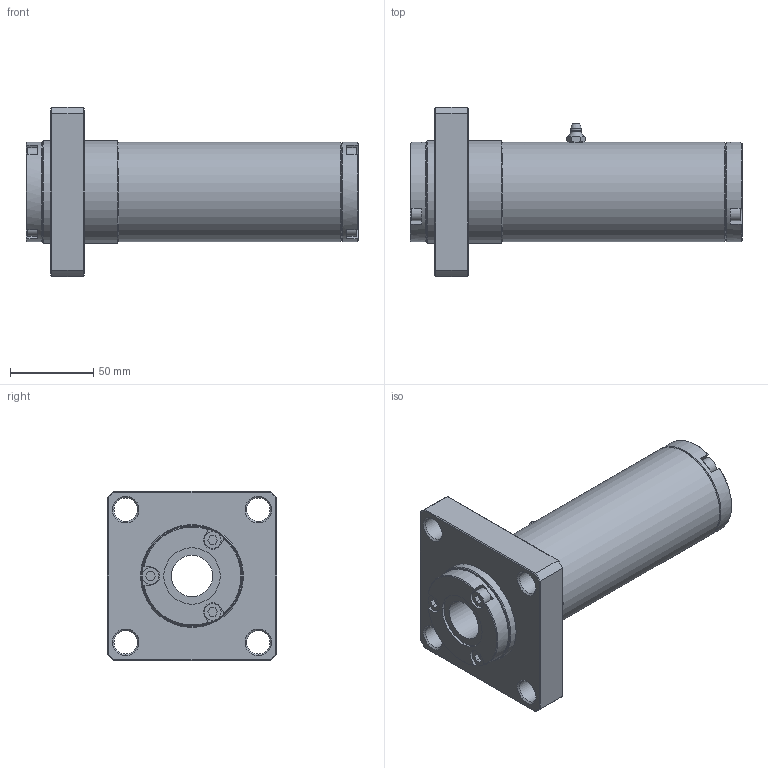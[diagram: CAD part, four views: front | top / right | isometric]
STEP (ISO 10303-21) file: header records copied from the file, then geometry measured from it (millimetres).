
FILE_DESCRIPTION(('STEP AP203'),'1');
FILE_NAME('//192.168.1.1/share/s-4 技術開発/s-4-14_個人別フォルダ/橋詰/09_CAD_DATA/3D/HP用/3Ｄモデル/LCF/LCF-C/LCF-25CVUU.step','2022-02-04T02:43:42',(' '),(' '),'Spatial InterOp 3D',' ',' ');
FILE_SCHEMA(('CONFIG_CONTROL_DESIGN'));
Length unit declared in the file: millimetre
Products named in the file (1): 1
Bounding box: 200 x 102 x 102 mm (x, y, z)
Volume: 607462.4 mm3; surface area: 82016.4 mm2
Topology: 1 solids, 1 shells, 177 faces, 437 edges, 276 vertices
Faces by surface type: plane 100, cone 43, cylinder 31, torus 2, sphere 1
Full cylindrical faces by diameter (mm): 6.6 x1, 8.566 x2, 10 x6, 14 x4, 25 x1, 34 x2, 60 x3, 62 x2
Entity records: 5202 total; most frequent: CARTESIAN_POINT 1248, DIRECTION 800, ORIENTED_EDGE 758, EDGE_CURVE 379, AXIS2_PLACEMENT_3D 304, VERTEX_POINT 258, EDGE_LOOP 240, FACE_OUTER_BOUND 200
